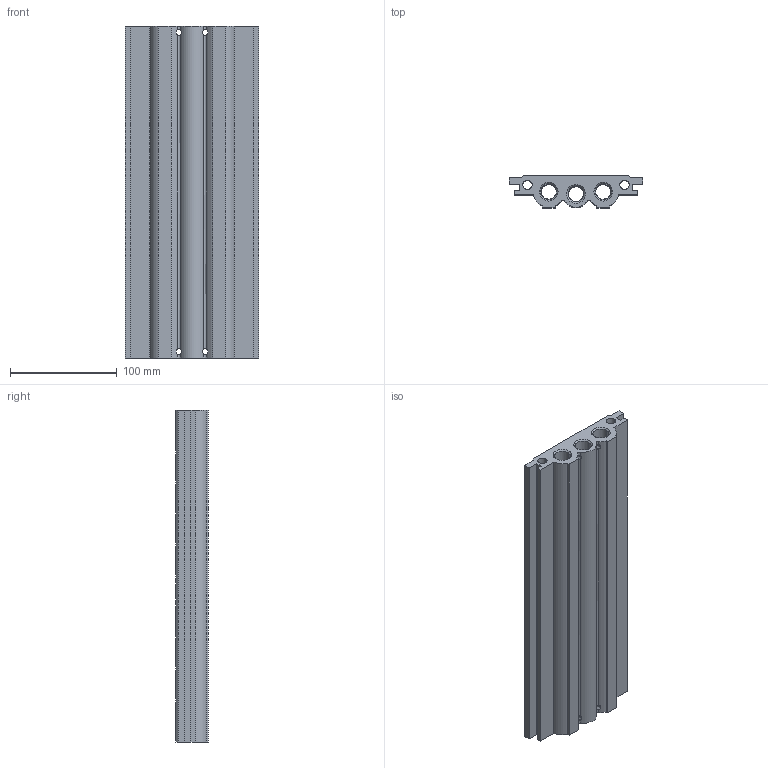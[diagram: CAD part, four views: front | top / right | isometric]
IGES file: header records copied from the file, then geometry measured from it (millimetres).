
Global section: file name: No Iges File Name specified; native system: AutoDesk Inventor R11.0; preprocessor: AutoDesk Inventor Iges Exporter R11.0; author: No Author specified; organization: No Organization specified; date: 20061201.115310; units: millimetre
Bounding box: 125 x 30 x 311 mm (x, y, z)
Volume: 640263.3 mm3; surface area: 178009.7 mm2
Topology: 1 solids, 1 shells, 374 faces, 978 edges, 648 vertices
Faces by surface type: bspline 313, revolution 28, plane 28, cylinder 5
